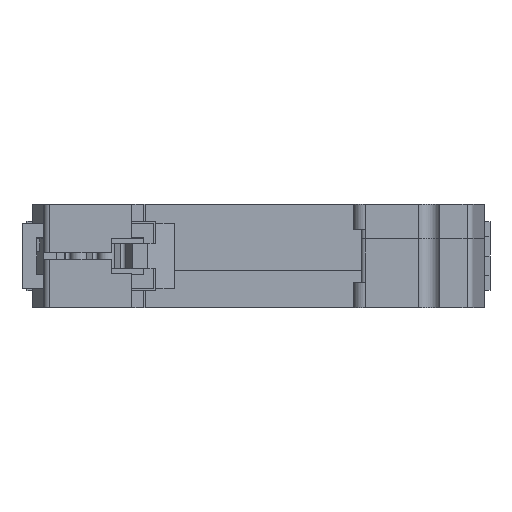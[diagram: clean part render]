
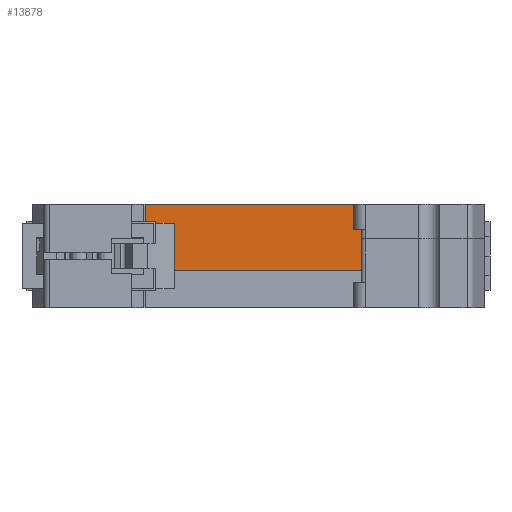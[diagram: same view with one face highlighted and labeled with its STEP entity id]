
A CAD part, front view. The second image highlights one B-rep face of the part: STEP entity #13878.
In plain terms, the highlighted planar face has unit normal (0, -1, 0).
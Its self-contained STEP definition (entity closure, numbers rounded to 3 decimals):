
#14 = VERTEX_POINT ( 'NONE', #11006 ) ;
#1057 = AXIS2_PLACEMENT_3D ( 'NONE', #18259, #13239, #4766 ) ;
#1240 = CARTESIAN_POINT ( 'NONE',  ( -10.7, -55.95, 0.1 ) ) ;
#1548 = VECTOR ( 'NONE', #3365, 1000. ) ;
#1652 = CARTESIAN_POINT ( 'NONE',  ( 26.2, -55.95, -5.8 ) ) ;
#1976 = ORIENTED_EDGE ( 'NONE', *, *, #4892, .T. ) ;
#2294 = DIRECTION ( 'NONE',  ( 1., 0., 0. ) ) ;
#2640 = ORIENTED_EDGE ( 'NONE', *, *, #19781, .F. ) ;
#2718 = CARTESIAN_POINT ( 'NONE',  ( -8.9, -55.95, -11.3 ) ) ;
#2843 = CARTESIAN_POINT ( 'NONE',  ( -8.9, -55.95, -8.75 ) ) ;
#2870 = VERTEX_POINT ( 'NONE', #2718 ) ;
#3365 = DIRECTION ( 'NONE',  ( 0., 0., 1. ) ) ;
#4055 = EDGE_CURVE ( 'NONE', #18238, #14, #6930, .T. ) ;
#4766 = DIRECTION ( 'NONE',  ( 0., 0., -1. ) ) ;
#4780 = ORIENTED_EDGE ( 'NONE', *, *, #20366, .F. ) ;
#4801 = EDGE_LOOP ( 'NONE', ( #1976, #12346, #2640, #11643, #4780, #19993, #16744, #18043 ) ) ;
#4892 = EDGE_CURVE ( 'NONE', #18959, #14, #14294, .T. ) ;
#5063 = CARTESIAN_POINT ( 'NONE',  ( -11., -55.95, -2.8 ) ) ;
#5142 = DIRECTION ( 'NONE',  ( -1., 0., 0. ) ) ;
#5194 = VERTEX_POINT ( 'NONE', #13668 ) ;
#5864 = EDGE_CURVE ( 'NONE', #5194, #13107, #18790, .T. ) ;
#6008 = FACE_OUTER_BOUND ( 'NONE', #4801, .T. ) ;
#6131 = VECTOR ( 'NONE', #2294, 1000. ) ;
#6245 = DIRECTION ( 'NONE',  ( 0., 0., 1. ) ) ;
#6643 = PLANE ( 'NONE',  #1057 ) ;
#6691 = VECTOR ( 'NONE', #16301, 1000. ) ;
#6930 = LINE ( 'NONE', #15974, #6131 ) ;
#8370 = CARTESIAN_POINT ( 'NONE',  ( 29.2, -55.95, -11.3 ) ) ;
#9915 = LINE ( 'NONE', #10711, #19769 ) ;
#10036 = VECTOR ( 'NONE', #15708, 1000. ) ;
#10636 = DIRECTION ( 'NONE',  ( 1., 0., 0. ) ) ;
#10711 = CARTESIAN_POINT ( 'NONE',  ( 29.2, -55.95, -5.8 ) ) ;
#11006 = CARTESIAN_POINT ( 'NONE',  ( 26.2, -55.95, 0.1 ) ) ;
#11569 = VERTEX_POINT ( 'NONE', #17706 ) ;
#11643 = ORIENTED_EDGE ( 'NONE', *, *, #5864, .F. ) ;
#12346 = ORIENTED_EDGE ( 'NONE', *, *, #4055, .F. ) ;
#12374 = CARTESIAN_POINT ( 'NONE',  ( -10.7, -55.95, -2.8 ) ) ;
#12681 = EDGE_CURVE ( 'NONE', #16769, #2870, #16918, .T. ) ;
#13107 = VERTEX_POINT ( 'NONE', #12374 ) ;
#13239 = DIRECTION ( 'NONE',  ( 0., -1., 0. ) ) ;
#13480 = CARTESIAN_POINT ( 'NONE',  ( 26.2, -55.95, -8.75 ) ) ;
#13668 = CARTESIAN_POINT ( 'NONE',  ( -8.9, -55.95, -2.8 ) ) ;
#13878 = ADVANCED_FACE ( 'NONE', ( #6008 ), #6643, .T. ) ;
#14225 = VECTOR ( 'NONE', #5142, 1000. ) ;
#14294 = LINE ( 'NONE', #13480, #1548 ) ;
#14656 = LINE ( 'NONE', #14992, #16254 ) ;
#14856 = CARTESIAN_POINT ( 'NONE',  ( 29.2, -55.95, 81.465 ) ) ;
#14918 = LINE ( 'NONE', #2843, #6691 ) ;
#14934 = EDGE_CURVE ( 'NONE', #18959, #11569, #9915, .T. ) ;
#14992 = CARTESIAN_POINT ( 'NONE',  ( -10.7, -55.95, -2.8 ) ) ;
#15708 = DIRECTION ( 'NONE',  ( -1., 0., 0. ) ) ;
#15776 = CARTESIAN_POINT ( 'NONE',  ( 29.2, -55.95, -11.3 ) ) ;
#15974 = CARTESIAN_POINT ( 'NONE',  ( -10.7, -55.95, 0.1 ) ) ;
#16254 = VECTOR ( 'NONE', #6245, 1000. ) ;
#16301 = DIRECTION ( 'NONE',  ( 0., 0., 1. ) ) ;
#16744 = ORIENTED_EDGE ( 'NONE', *, *, #17589, .F. ) ;
#16769 = VERTEX_POINT ( 'NONE', #8370 ) ;
#16771 = DIRECTION ( 'NONE',  ( 0., 0., -1. ) ) ;
#16918 = LINE ( 'NONE', #15776, #10036 ) ;
#17589 = EDGE_CURVE ( 'NONE', #11569, #16769, #20388, .T. ) ;
#17706 = CARTESIAN_POINT ( 'NONE',  ( 29.2, -55.95, -5.8 ) ) ;
#18043 = ORIENTED_EDGE ( 'NONE', *, *, #14934, .F. ) ;
#18238 = VERTEX_POINT ( 'NONE', #1240 ) ;
#18259 = CARTESIAN_POINT ( 'NONE',  ( -11., -55.95, -8.75 ) ) ;
#18790 = LINE ( 'NONE', #5063, #14225 ) ;
#18959 = VERTEX_POINT ( 'NONE', #1652 ) ;
#19769 = VECTOR ( 'NONE', #10636, 1000. ) ;
#19781 = EDGE_CURVE ( 'NONE', #13107, #18238, #14656, .T. ) ;
#19993 = ORIENTED_EDGE ( 'NONE', *, *, #12681, .F. ) ;
#20366 = EDGE_CURVE ( 'NONE', #2870, #5194, #14918, .T. ) ;
#20388 = LINE ( 'NONE', #14856, #20666 ) ;
#20666 = VECTOR ( 'NONE', #16771, 1000. ) ;
